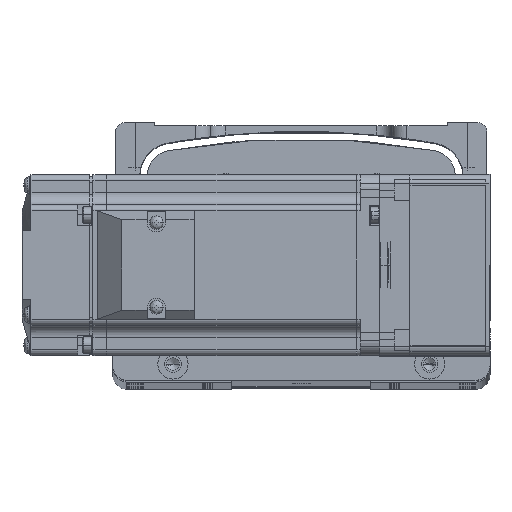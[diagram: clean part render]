
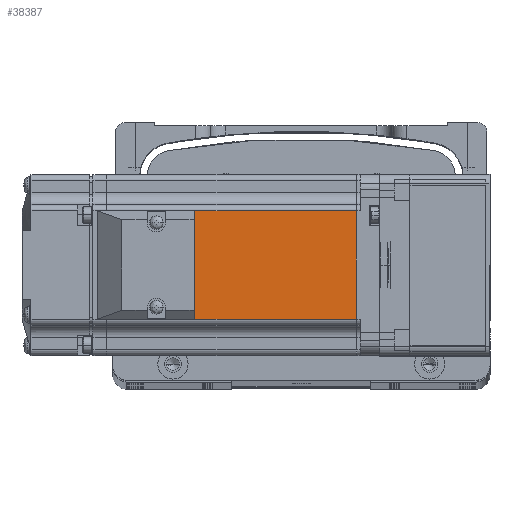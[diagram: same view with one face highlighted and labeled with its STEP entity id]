
A CAD part, top view. The second image highlights one B-rep face of the part: STEP entity #38387.
In plain terms, the highlighted planar face has unit normal (0, 0, 1) as drawn and (0, 1, 0) by its records, which use the part's own axes.
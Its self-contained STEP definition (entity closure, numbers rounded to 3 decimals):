
#6290 = DIRECTION ( 'NONE',  ( 0., 1., 0. ) ) ;
#10223 = ORIENTED_EDGE ( 'NONE', *, *, #52000, .T. ) ;
#11531 = CARTESIAN_POINT ( 'NONE',  ( -7.75, 30., 0. ) ) ;
#12438 = CARTESIAN_POINT ( 'NONE',  ( -90.45, 30., 18. ) ) ;
#13862 = LINE ( 'NONE', #45355, #29537 ) ;
#14401 = LINE ( 'NONE', #11531, #81410 ) ;
#17403 = LINE ( 'NONE', #46944, #50922 ) ;
#19066 = VERTEX_POINT ( 'NONE', #76800 ) ;
#19567 = PLANE ( 'NONE',  #54090 ) ;
#21351 = VERTEX_POINT ( 'NONE', #12438 ) ;
#21873 = CARTESIAN_POINT ( 'NONE',  ( -6.5, 30., 18. ) ) ;
#24783 = EDGE_CURVE ( 'NONE', #40428, #74204, #17403, .T. ) ;
#29537 = VECTOR ( 'NONE', #84784, 1000. ) ;
#31712 = DIRECTION ( 'NONE',  ( 0., 0., 1. ) ) ;
#31765 = EDGE_CURVE ( 'NONE', #40428, #19066, #14401, .T. ) ;
#34718 = ORIENTED_EDGE ( 'NONE', *, *, #84766, .T. ) ;
#38387 = ADVANCED_FACE ( 'NONE', ( #78750 ), #19567, .T. ) ;
#40428 = VERTEX_POINT ( 'NONE', #40617 ) ;
#40617 = CARTESIAN_POINT ( 'NONE',  ( -7.75, 30., -18. ) ) ;
#41080 = ORIENTED_EDGE ( 'NONE', *, *, #24783, .T. ) ;
#43051 = VECTOR ( 'NONE', #55199, 1000. ) ;
#45116 = EDGE_LOOP ( 'NONE', ( #72532, #41080, #10223, #34718 ) ) ;
#45355 = CARTESIAN_POINT ( 'NONE',  ( -90.45, 30., 0. ) ) ;
#46492 = CARTESIAN_POINT ( 'NONE',  ( -6.5, 30., 25. ) ) ;
#46944 = CARTESIAN_POINT ( 'NONE',  ( -6.5, 30., -18. ) ) ;
#50922 = VECTOR ( 'NONE', #73797, 1000. ) ;
#52000 = EDGE_CURVE ( 'NONE', #74204, #21351, #13862, .T. ) ;
#53195 = DIRECTION ( 'NONE',  ( 0., 0., 1. ) ) ;
#54090 = AXIS2_PLACEMENT_3D ( 'NONE', #46492, #6290, #53195 ) ;
#55199 = DIRECTION ( 'NONE',  ( 1., 0., 0. ) ) ;
#58451 = CARTESIAN_POINT ( 'NONE',  ( -90.45, 30., -18. ) ) ;
#65033 = LINE ( 'NONE', #21873, #43051 ) ;
#72532 = ORIENTED_EDGE ( 'NONE', *, *, #31765, .F. ) ;
#73797 = DIRECTION ( 'NONE',  ( -1., 0., 0. ) ) ;
#74204 = VERTEX_POINT ( 'NONE', #58451 ) ;
#76800 = CARTESIAN_POINT ( 'NONE',  ( -7.75, 30., 18. ) ) ;
#78750 = FACE_OUTER_BOUND ( 'NONE', #45116, .T. ) ;
#81410 = VECTOR ( 'NONE', #31712, 1000. ) ;
#84766 = EDGE_CURVE ( 'NONE', #21351, #19066, #65033, .T. ) ;
#84784 = DIRECTION ( 'NONE',  ( 0., 0., 1. ) ) ;
